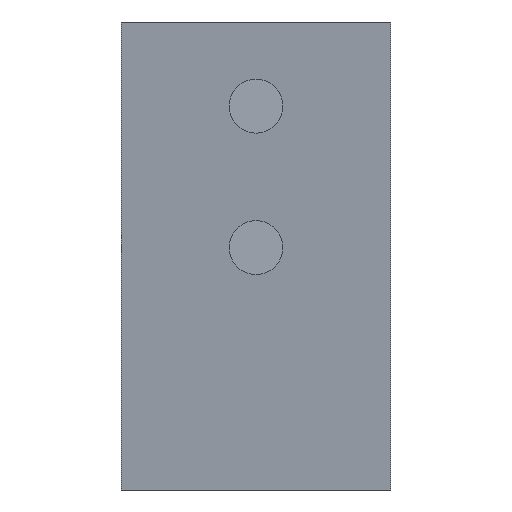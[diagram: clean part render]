
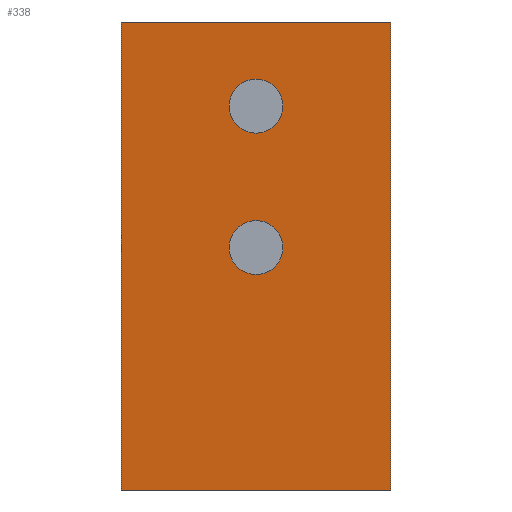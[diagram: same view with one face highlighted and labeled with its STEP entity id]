
A CAD part, front view. The second image highlights one B-rep face of the part: STEP entity #338.
In plain terms, the highlighted planar face has unit normal (0, -0.995, -0.104).
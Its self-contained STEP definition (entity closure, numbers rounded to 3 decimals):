
#44 = PLANE('',#45);
#45 = AXIS2_PLACEMENT_3D('',#46,#47,#48);
#46 = CARTESIAN_POINT('',(1.,5.691,6.25));
#47 = DIRECTION('',(1.,0.,0.));
#48 = DIRECTION('',(-0.,0.,1.));
#72 = PLANE('',#73);
#73 = AXIS2_PLACEMENT_3D('',#74,#75,#76);
#74 = CARTESIAN_POINT('',(1.,8.,-34.75));
#75 = DIRECTION('',(0.,0.,1.));
#76 = DIRECTION('',(0.,1.,0.));
#100 = PLANE('',#101);
#101 = AXIS2_PLACEMENT_3D('',#102,#103,#104);
#102 = CARTESIAN_POINT('',(21.,5.691,6.25));
#103 = DIRECTION('',(1.,0.,0.));
#104 = DIRECTION('',(-0.,0.,1.));
#126 = PLANE('',#127);
#127 = AXIS2_PLACEMENT_3D('',#128,#129,#130);
#128 = CARTESIAN_POINT('',(-400.,-388.,0.));
#129 = DIRECTION('',(0.,0.,1.));
#130 = DIRECTION('',(1.,0.,0.));
#142 = VERTEX_POINT('',#143);
#143 = CARTESIAN_POINT('',(1.,8.,-34.75));
#166 = VERTEX_POINT('',#167);
#167 = CARTESIAN_POINT('',(1.,4.348,0.));
#188 = EDGE_CURVE('',#166,#142,#189,.T.);
#189 = SURFACE_CURVE('',#190,(#194,#201),.PCURVE_S1.);
#190 = LINE('',#191,#192);
#191 = CARTESIAN_POINT('',(1.,-0.619,47.25));
#192 = VECTOR('',#193,1.);
#193 = DIRECTION('',(0.,0.105,-0.995));
#194 = PCURVE('',#44,#195);
#195 = DEFINITIONAL_REPRESENTATION('',(#196),#200);
#196 = LINE('',#197,#198);
#197 = CARTESIAN_POINT('',(41.,6.309));
#198 = VECTOR('',#199,1.);
#199 = DIRECTION('',(-0.995,-0.105));
#200 = ( GEOMETRIC_REPRESENTATION_CONTEXT(2) 
PARAMETRIC_REPRESENTATION_CONTEXT() REPRESENTATION_CONTEXT('2D SPACE',''
  ) );
#201 = PCURVE('',#202,#207);
#202 = PLANE('',#203);
#203 = AXIS2_PLACEMENT_3D('',#204,#205,#206);
#204 = CARTESIAN_POINT('',(1.,-0.619,47.25));
#205 = DIRECTION('',(-0.,0.995,0.105));
#206 = DIRECTION('',(0.,0.105,-0.995));
#207 = DEFINITIONAL_REPRESENTATION('',(#208),#212);
#208 = LINE('',#209,#210);
#209 = CARTESIAN_POINT('',(0.,0.));
#210 = VECTOR('',#211,1.);
#211 = DIRECTION('',(1.,0.));
#212 = ( GEOMETRIC_REPRESENTATION_CONTEXT(2) 
PARAMETRIC_REPRESENTATION_CONTEXT() REPRESENTATION_CONTEXT('2D SPACE',''
  ) );
#218 = VERTEX_POINT('',#219);
#219 = CARTESIAN_POINT('',(21.,4.348,0.));
#242 = EDGE_CURVE('',#166,#218,#243,.T.);
#243 = SURFACE_CURVE('',#244,(#248,#255),.PCURVE_S1.);
#244 = LINE('',#245,#246);
#245 = CARTESIAN_POINT('',(-199.5,4.348,0.));
#246 = VECTOR('',#247,1.);
#247 = DIRECTION('',(1.,0.,-0.));
#248 = PCURVE('',#126,#249);
#249 = DEFINITIONAL_REPRESENTATION('',(#250),#254);
#250 = LINE('',#251,#252);
#251 = CARTESIAN_POINT('',(200.5,392.348));
#252 = VECTOR('',#253,1.);
#253 = DIRECTION('',(1.,0.));
#254 = ( GEOMETRIC_REPRESENTATION_CONTEXT(2) 
PARAMETRIC_REPRESENTATION_CONTEXT() REPRESENTATION_CONTEXT('2D SPACE',''
  ) );
#255 = PCURVE('',#202,#256);
#256 = DEFINITIONAL_REPRESENTATION('',(#257),#261);
#257 = LINE('',#258,#259);
#258 = CARTESIAN_POINT('',(47.51,200.5));
#259 = VECTOR('',#260,1.);
#260 = DIRECTION('',(0.,-1.));
#261 = ( GEOMETRIC_REPRESENTATION_CONTEXT(2) 
PARAMETRIC_REPRESENTATION_CONTEXT() REPRESENTATION_CONTEXT('2D SPACE',''
  ) );
#267 = VERTEX_POINT('',#268);
#268 = CARTESIAN_POINT('',(21.,8.,-34.75));
#291 = EDGE_CURVE('',#218,#267,#292,.T.);
#292 = SURFACE_CURVE('',#293,(#297,#304),.PCURVE_S1.);
#293 = LINE('',#294,#295);
#294 = CARTESIAN_POINT('',(21.,-0.619,47.25));
#295 = VECTOR('',#296,1.);
#296 = DIRECTION('',(0.,0.105,-0.995));
#297 = PCURVE('',#100,#298);
#298 = DEFINITIONAL_REPRESENTATION('',(#299),#303);
#299 = LINE('',#300,#301);
#300 = CARTESIAN_POINT('',(41.,6.309));
#301 = VECTOR('',#302,1.);
#302 = DIRECTION('',(-0.995,-0.105));
#303 = ( GEOMETRIC_REPRESENTATION_CONTEXT(2) 
PARAMETRIC_REPRESENTATION_CONTEXT() REPRESENTATION_CONTEXT('2D SPACE',''
  ) );
#304 = PCURVE('',#202,#305);
#305 = DEFINITIONAL_REPRESENTATION('',(#306),#310);
#306 = LINE('',#307,#308);
#307 = CARTESIAN_POINT('',(0.,-20.));
#308 = VECTOR('',#309,1.);
#309 = DIRECTION('',(1.,0.));
#310 = ( GEOMETRIC_REPRESENTATION_CONTEXT(2) 
PARAMETRIC_REPRESENTATION_CONTEXT() REPRESENTATION_CONTEXT('2D SPACE',''
  ) );
#315 = EDGE_CURVE('',#142,#267,#316,.T.);
#316 = SURFACE_CURVE('',#317,(#321,#328),.PCURVE_S1.);
#317 = LINE('',#318,#319);
#318 = CARTESIAN_POINT('',(1.,8.,-34.75));
#319 = VECTOR('',#320,1.);
#320 = DIRECTION('',(1.,0.,0.));
#321 = PCURVE('',#72,#322);
#322 = DEFINITIONAL_REPRESENTATION('',(#323),#327);
#323 = LINE('',#324,#325);
#324 = CARTESIAN_POINT('',(0.,0.));
#325 = VECTOR('',#326,1.);
#326 = DIRECTION('',(0.,-1.));
#327 = ( GEOMETRIC_REPRESENTATION_CONTEXT(2) 
PARAMETRIC_REPRESENTATION_CONTEXT() REPRESENTATION_CONTEXT('2D SPACE',''
  ) );
#328 = PCURVE('',#202,#329);
#329 = DEFINITIONAL_REPRESENTATION('',(#330),#334);
#330 = LINE('',#331,#332);
#331 = CARTESIAN_POINT('',(82.452,0.));
#332 = VECTOR('',#333,1.);
#333 = DIRECTION('',(0.,-1.));
#334 = ( GEOMETRIC_REPRESENTATION_CONTEXT(2) 
PARAMETRIC_REPRESENTATION_CONTEXT() REPRESENTATION_CONTEXT('2D SPACE',''
  ) );
#338 = ADVANCED_FACE('',(#339,#345,#389),#202,.F.);
#339 = FACE_BOUND('',#340,.F.);
#340 = EDGE_LOOP('',(#341,#342,#343,#344));
#341 = ORIENTED_EDGE('',*,*,#188,.F.);
#342 = ORIENTED_EDGE('',*,*,#242,.T.);
#343 = ORIENTED_EDGE('',*,*,#291,.T.);
#344 = ORIENTED_EDGE('',*,*,#315,.F.);
#345 = FACE_BOUND('',#346,.F.);
#346 = EDGE_LOOP('',(#347));
#347 = ORIENTED_EDGE('',*,*,#348,.F.);
#348 = EDGE_CURVE('',#349,#349,#351,.T.);
#349 = VERTEX_POINT('',#350);
#350 = CARTESIAN_POINT('',(9.55,5.005,-6.25));
#351 = SURFACE_CURVE('',#352,(#357,#364),.PCURVE_S1.);
#352 = ELLIPSE('',#353,1.458,1.45);
#353 = AXIS2_PLACEMENT_3D('',#354,#355,#356);
#354 = CARTESIAN_POINT('',(11.,5.005,-6.25));
#355 = DIRECTION('',(0.,0.995,0.105));
#356 = DIRECTION('',(0.,0.105,-0.995));
#357 = PCURVE('',#202,#358);
#358 = DEFINITIONAL_REPRESENTATION('',(#359),#363);
#359 = ELLIPSE('',#360,1.458,1.45);
#360 = AXIS2_PLACEMENT_2D('',#361,#362);
#361 = CARTESIAN_POINT('',(53.795,-10.));
#362 = DIRECTION('',(1.,0.));
#363 = ( GEOMETRIC_REPRESENTATION_CONTEXT(2) 
PARAMETRIC_REPRESENTATION_CONTEXT() REPRESENTATION_CONTEXT('2D SPACE',''
  ) );
#364 = PCURVE('',#365,#370);
#365 = CYLINDRICAL_SURFACE('',#366,1.45);
#366 = AXIS2_PLACEMENT_3D('',#367,#368,#369);
#367 = CARTESIAN_POINT('',(11.,5.205,-6.25));
#368 = DIRECTION('',(-0.,1.,-0.));
#369 = DIRECTION('',(-1.,0.,0.));
#370 = DEFINITIONAL_REPRESENTATION('',(#371),#388);
#371 = B_SPLINE_CURVE_WITH_KNOTS('',8,(#372,#373,#374,#375,#376,#377,
    #378,#379,#380,#381,#382,#383,#384,#385,#386,#387),.UNSPECIFIED.,.F.
  ,.F.,(9,7,9),(1.571,4.712,7.854),
  .UNSPECIFIED.);
#372 = CARTESIAN_POINT('',(-6.283,-0.2));
#373 = CARTESIAN_POINT('',(-5.89,-0.26));
#374 = CARTESIAN_POINT('',(-5.498,-0.32));
#375 = CARTESIAN_POINT('',(-5.105,-0.365));
#376 = CARTESIAN_POINT('',(-4.712,-0.383));
#377 = CARTESIAN_POINT('',(-4.32,-0.365));
#378 = CARTESIAN_POINT('',(-3.927,-0.32));
#379 = CARTESIAN_POINT('',(-3.534,-0.26));
#380 = CARTESIAN_POINT('',(-2.749,-0.14));
#381 = CARTESIAN_POINT('',(-2.356,-0.08));
#382 = CARTESIAN_POINT('',(-1.963,-0.035));
#383 = CARTESIAN_POINT('',(-1.571,-0.017));
#384 = CARTESIAN_POINT('',(-1.178,-0.035));
#385 = CARTESIAN_POINT('',(-0.785,-0.08));
#386 = CARTESIAN_POINT('',(-0.393,-0.14));
#387 = CARTESIAN_POINT('',(0.,-0.2));
#388 = ( GEOMETRIC_REPRESENTATION_CONTEXT(2) 
PARAMETRIC_REPRESENTATION_CONTEXT() REPRESENTATION_CONTEXT('2D SPACE',''
  ) );
#389 = FACE_BOUND('',#390,.F.);
#390 = EDGE_LOOP('',(#391));
#391 = ORIENTED_EDGE('',*,*,#392,.F.);
#392 = EDGE_CURVE('',#393,#393,#395,.T.);
#393 = VERTEX_POINT('',#394);
#394 = CARTESIAN_POINT('',(9.55,6.108,-16.75));
#395 = SURFACE_CURVE('',#396,(#401,#408),.PCURVE_S1.);
#396 = ELLIPSE('',#397,1.458,1.45);
#397 = AXIS2_PLACEMENT_3D('',#398,#399,#400);
#398 = CARTESIAN_POINT('',(11.,6.108,-16.75));
#399 = DIRECTION('',(0.,0.995,0.105));
#400 = DIRECTION('',(0.,0.105,-0.995));
#401 = PCURVE('',#202,#402);
#402 = DEFINITIONAL_REPRESENTATION('',(#403),#407);
#403 = ELLIPSE('',#404,1.458,1.45);
#404 = AXIS2_PLACEMENT_2D('',#405,#406);
#405 = CARTESIAN_POINT('',(64.353,-10.));
#406 = DIRECTION('',(1.,0.));
#407 = ( GEOMETRIC_REPRESENTATION_CONTEXT(2) 
PARAMETRIC_REPRESENTATION_CONTEXT() REPRESENTATION_CONTEXT('2D SPACE',''
  ) );
#408 = PCURVE('',#409,#414);
#409 = CYLINDRICAL_SURFACE('',#410,1.45);
#410 = AXIS2_PLACEMENT_3D('',#411,#412,#413);
#411 = CARTESIAN_POINT('',(11.,6.308,-16.75));
#412 = DIRECTION('',(-0.,1.,-0.));
#413 = DIRECTION('',(-1.,0.,0.));
#414 = DEFINITIONAL_REPRESENTATION('',(#415),#432);
#415 = B_SPLINE_CURVE_WITH_KNOTS('',8,(#416,#417,#418,#419,#420,#421,
    #422,#423,#424,#425,#426,#427,#428,#429,#430,#431),.UNSPECIFIED.,.F.
  ,.F.,(9,7,9),(1.571,4.712,7.854),
  .UNSPECIFIED.);
#416 = CARTESIAN_POINT('',(-6.283,-0.2));
#417 = CARTESIAN_POINT('',(-5.89,-0.26));
#418 = CARTESIAN_POINT('',(-5.498,-0.32));
#419 = CARTESIAN_POINT('',(-5.105,-0.365));
#420 = CARTESIAN_POINT('',(-4.712,-0.383));
#421 = CARTESIAN_POINT('',(-4.32,-0.365));
#422 = CARTESIAN_POINT('',(-3.927,-0.32));
#423 = CARTESIAN_POINT('',(-3.534,-0.26));
#424 = CARTESIAN_POINT('',(-2.749,-0.14));
#425 = CARTESIAN_POINT('',(-2.356,-0.08));
#426 = CARTESIAN_POINT('',(-1.963,-0.035));
#427 = CARTESIAN_POINT('',(-1.571,-0.017));
#428 = CARTESIAN_POINT('',(-1.178,-0.035));
#429 = CARTESIAN_POINT('',(-0.785,-0.08));
#430 = CARTESIAN_POINT('',(-0.393,-0.14));
#431 = CARTESIAN_POINT('',(0.,-0.2));
#432 = ( GEOMETRIC_REPRESENTATION_CONTEXT(2) 
PARAMETRIC_REPRESENTATION_CONTEXT() REPRESENTATION_CONTEXT('2D SPACE',''
  ) );
